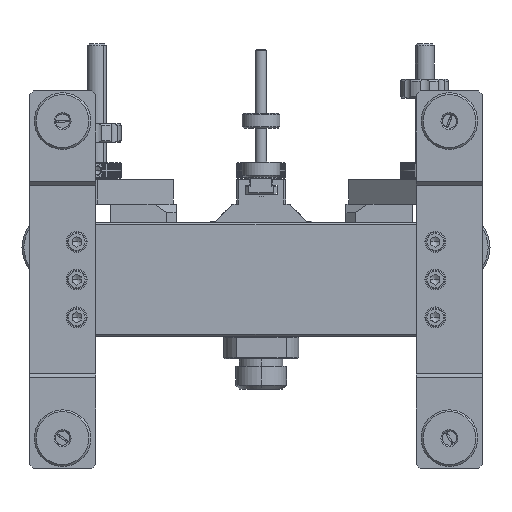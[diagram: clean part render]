
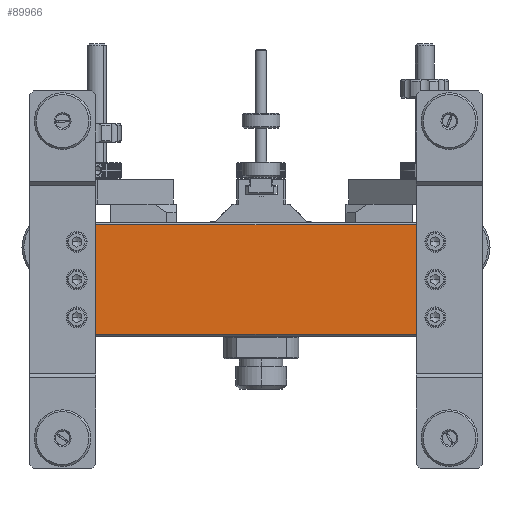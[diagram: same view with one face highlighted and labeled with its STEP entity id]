
A CAD part, front view. The second image highlights one B-rep face of the part: STEP entity #89966.
In plain terms, the highlighted planar face has unit normal (0, -1, 0).
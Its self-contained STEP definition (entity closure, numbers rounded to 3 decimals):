
#85198=CARTESIAN_POINT('',(205.0,0.0,59.0));
#85199=VERTEX_POINT('',#85198);
#85206=CARTESIAN_POINT('',(205.0,0.0,1.));
#85207=VERTEX_POINT('',#85206);
#85208=CARTESIAN_POINT('',(205.0,0.0,1.0));
#85209=DIRECTION('',(0.0,0.0,1.0));
#85210=VECTOR('',#85209,58.0);
#85211=LINE('',#85208,#85210);
#85212=EDGE_CURVE('',#85207,#85199,#85211,.T.);
#86228=CARTESIAN_POINT('',(35.0,0.,1.));
#86229=VERTEX_POINT('',#86228);
#86236=CARTESIAN_POINT('',(35.0,0.,59.0));
#86237=VERTEX_POINT('',#86236);
#86238=CARTESIAN_POINT('',(35.0,0.,59.0));
#86239=DIRECTION('',(0.0,0.0,-1.0));
#86240=VECTOR('',#86239,58.0);
#86241=LINE('',#86238,#86240);
#86242=EDGE_CURVE('',#86237,#86229,#86241,.T.);
#86889=CARTESIAN_POINT('',(35.0,0.,59.0));
#86890=DIRECTION('',(1.0,0.0,0.0));
#86891=VECTOR('',#86890,170.0);
#86892=LINE('',#86889,#86891);
#86893=EDGE_CURVE('',#86237,#85199,#86892,.T.);
#87107=CARTESIAN_POINT('',(205.0,0.,1.0));
#87108=DIRECTION('',(-1.0,0.0,0.0));
#87109=VECTOR('',#87108,170.0);
#87110=LINE('',#87107,#87109);
#87111=EDGE_CURVE('',#85207,#86229,#87110,.T.);
#89955=CARTESIAN_POINT('',(240.0,0.,0.0));
#89956=DIRECTION('',(0.0,-1.0,0.0));
#89957=DIRECTION('',(0.0,0.0,-1.0));
#89958=AXIS2_PLACEMENT_3D('',#89955,#89956,#89957);
#89959=PLANE('',#89958);
#89960=ORIENTED_EDGE('',*,*,#86893,.F.);
#89961=ORIENTED_EDGE('',*,*,#86242,.T.);
#89962=ORIENTED_EDGE('',*,*,#87111,.F.);
#89963=ORIENTED_EDGE('',*,*,#85212,.T.);
#89964=EDGE_LOOP('',(#89960,#89961,#89962,#89963));
#89965=FACE_OUTER_BOUND('',#89964,.T.);
#89966=ADVANCED_FACE('',(#89965),#89959,.T.);
